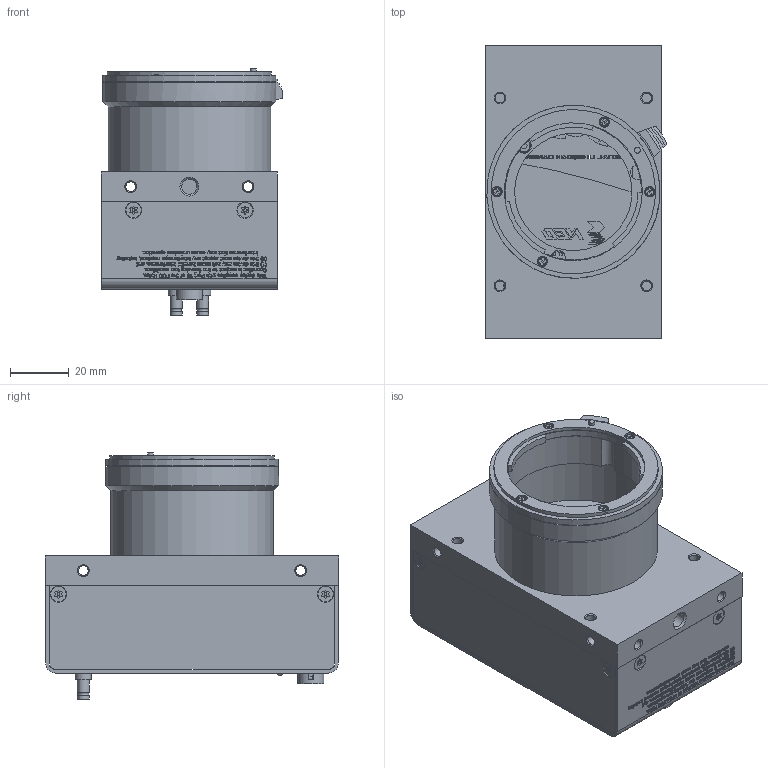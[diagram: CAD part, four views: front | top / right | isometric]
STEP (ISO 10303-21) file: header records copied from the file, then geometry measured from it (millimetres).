
FILE_DESCRIPTION (( 'STEP AP203' ), '1' );
FILE_NAME ('C7-5031-00-45／RMSL4K100CP Assy.STEP', '2020-05-13T08:18:10', ( '' ), ( '' ), 'SwSTEP 2.0', 'SolidWorks 2016', '' );
FILE_SCHEMA (( 'CONFIG_CONTROL_DESIGN' ));
Products named in the file (1): C7-5031-00-45／RMSL4K100CP Assy
Bounding box: 61.8 x 100 x 84.02 mm (x, y, z)
Surface area: 40570.4 mm2 (no closed solid volume)
Topology: 0 solids, 75 shells, 1753 faces, 12766 edges, 10727 vertices
Faces by surface type: plane 1134, bspline 414, cylinder 160, cone 38, torus 6, sphere 1
Full cylindrical faces by diameter (mm): 0.5 x6, 0.8 x1, 1 x8, 2 x1, 3.3 x12, 3.5 x5, 4.1 x4, 4.5 x1, 5 x1, 5.105 x1, 5.5 x2, 7 x2, 8.85 x1, 11.2 x1, 47 x1, 51.5 x1, 55.5 x1, 56 x1, 59 x2
Entity records: 163860 total; most frequent: CARTESIAN_POINT 84898, ORIENTED_EDGE 15487, EDGE_CURVE 12667, VERTEX_POINT 10713, DIRECTION 10456, VECTOR 6594, LINE 6594, B_SPLINE_CURVE_WITH_KNOTS 5482
